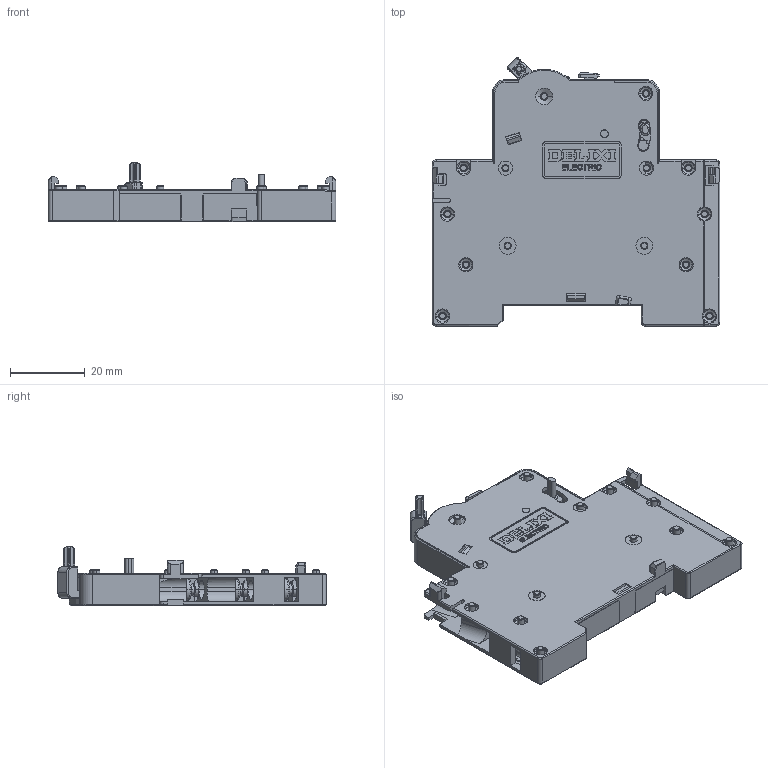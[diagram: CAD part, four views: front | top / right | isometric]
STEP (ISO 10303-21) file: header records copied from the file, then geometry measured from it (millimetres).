
FILE_DESCRIPTION((''),'2;1');
FILE_NAME('2297007200_SW0001','2023-11-07T',('dufeng.zhai'),(''),'PRO/ENGINEER BY PARAMETRIC TECHNOLOGY CORPORATION, 2015440','PRO/ENGINEER BY PARAMETRIC TECHNOLOGY CORPORATION, 2015440','');
FILE_SCHEMA(('CONFIG_CONTROL_DESIGN'));
Products named in the file (1): 2297007200_SW0001
Bounding box: 77 x 71.81 x 15.9 mm (x, y, z)
Volume: 28250.4 mm3; surface area: 22905.3 mm2
Topology: 1 solids, 1 shells, 2693 faces, 7542 edges, 4850 vertices
Faces by surface type: plane 1789, cylinder 495, cone 172, extrusion 91, torus 90, bspline 54, sphere 2
Entity records: 91007 total; most frequent: CARTESIAN_POINT 22398, ORIENTED_EDGE 15084, DIRECTION 13108, EDGE_CURVE 7542, VECTOR 5550, LINE 5459, VERTEX_POINT 4850, AXIS2_PLACEMENT_3D 3779
